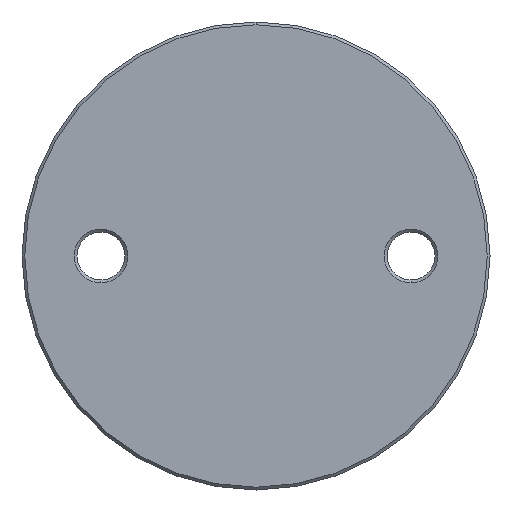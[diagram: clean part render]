
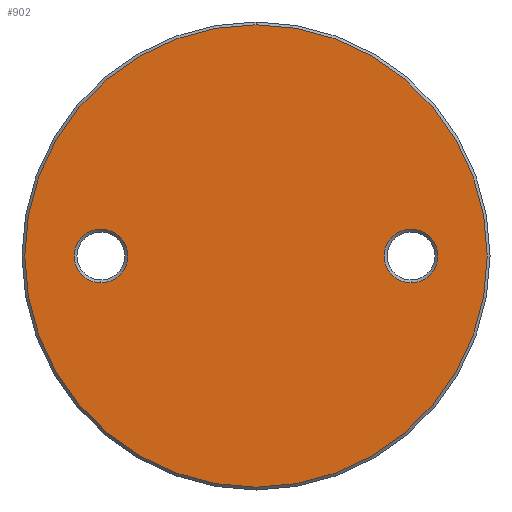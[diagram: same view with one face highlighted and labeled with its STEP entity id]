
A CAD part, front view. The second image highlights one B-rep face of the part: STEP entity #902.
In plain terms, the highlighted planar face has unit normal (0, -1, 0).
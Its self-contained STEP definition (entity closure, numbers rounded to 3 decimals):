
#305 = CARTESIAN_POINT ( 'NONE',  ( 0., -3., 41. ) ) ;
#339 = VERTEX_POINT ( 'NONE', #6341 ) ;
#532 = CARTESIAN_POINT ( 'NONE',  ( 27.5, -3., 0. ) ) ;
#805 = EDGE_CURVE ( 'NONE', #3270, #4691, #6602, .T. ) ;
#896 = CARTESIAN_POINT ( 'NONE',  ( -27.5, -3., 0. ) ) ;
#902 = ADVANCED_FACE ( 'NONE', ( #4488, #4258, #3660 ), #2490, .T. ) ;
#910 = DIRECTION ( 'NONE',  ( 0., 0., -1. ) ) ;
#929 = CIRCLE ( 'NONE', #1863, 4.75 ) ;
#1268 = AXIS2_PLACEMENT_3D ( 'NONE', #4307, #2205, #4810 ) ;
#1441 = DIRECTION ( 'NONE',  ( 0., 0., -1. ) ) ;
#1470 = CARTESIAN_POINT ( 'NONE',  ( 0., -3., 41.5 ) ) ;
#1496 = EDGE_CURVE ( 'NONE', #4153, #6148, #5569, .T. ) ;
#1835 = CIRCLE ( 'NONE', #6627, 4.75 ) ;
#1863 = AXIS2_PLACEMENT_3D ( 'NONE', #4281, #4450, #2833 ) ;
#1874 = ORIENTED_EDGE ( 'NONE', *, *, #3825, .T. ) ;
#2031 = CARTESIAN_POINT ( 'NONE',  ( -27.5, -3., 0. ) ) ;
#2043 = ORIENTED_EDGE ( 'NONE', *, *, #6791, .T. ) ;
#2205 = DIRECTION ( 'NONE',  ( 0., -1., 0. ) ) ;
#2284 = EDGE_LOOP ( 'NONE', ( #3290, #5967 ) ) ;
#2299 = AXIS2_PLACEMENT_3D ( 'NONE', #1470, #6250, #1441 ) ;
#2490 = PLANE ( 'NONE',  #2299 ) ;
#2552 = DIRECTION ( 'NONE',  ( 0., 1., 0. ) ) ;
#2668 = CARTESIAN_POINT ( 'NONE',  ( 0., -3., -41. ) ) ;
#2833 = DIRECTION ( 'NONE',  ( 0., 0., -1. ) ) ;
#2948 = AXIS2_PLACEMENT_3D ( 'NONE', #532, #5836, #3678 ) ;
#3061 = ORIENTED_EDGE ( 'NONE', *, *, #4284, .T. ) ;
#3080 = DIRECTION ( 'NONE',  ( 0., 0., -1. ) ) ;
#3137 = EDGE_LOOP ( 'NONE', ( #3061, #4955 ) ) ;
#3164 = CARTESIAN_POINT ( 'NONE',  ( -27.5, -3., -4.75 ) ) ;
#3270 = VERTEX_POINT ( 'NONE', #2668 ) ;
#3290 = ORIENTED_EDGE ( 'NONE', *, *, #1496, .T. ) ;
#3660 = FACE_OUTER_BOUND ( 'NONE', #3137, .T. ) ;
#3678 = DIRECTION ( 'NONE',  ( 0., 0., -1. ) ) ;
#3711 = DIRECTION ( 'NONE',  ( 0., 1., 0. ) ) ;
#3825 = EDGE_CURVE ( 'NONE', #5262, #339, #929, .T. ) ;
#4089 = CIRCLE ( 'NONE', #2948, 4.75 ) ;
#4101 = CARTESIAN_POINT ( 'NONE',  ( 0., -3., 0. ) ) ;
#4131 = EDGE_LOOP ( 'NONE', ( #1874, #2043 ) ) ;
#4153 = VERTEX_POINT ( 'NONE', #3164 ) ;
#4258 = FACE_BOUND ( 'NONE', #2284, .T. ) ;
#4281 = CARTESIAN_POINT ( 'NONE',  ( 27.5, -3., 0. ) ) ;
#4284 = EDGE_CURVE ( 'NONE', #4691, #3270, #5519, .T. ) ;
#4307 = CARTESIAN_POINT ( 'NONE',  ( 0., -3., 0. ) ) ;
#4450 = DIRECTION ( 'NONE',  ( 0., 1., 0. ) ) ;
#4488 = FACE_BOUND ( 'NONE', #4131, .T. ) ;
#4569 = AXIS2_PLACEMENT_3D ( 'NONE', #4101, #5706, #910 ) ;
#4621 = CARTESIAN_POINT ( 'NONE',  ( -27.5, -3., 4.75 ) ) ;
#4691 = VERTEX_POINT ( 'NONE', #305 ) ;
#4776 = EDGE_CURVE ( 'NONE', #6148, #4153, #1835, .T. ) ;
#4810 = DIRECTION ( 'NONE',  ( 0., 0., -1. ) ) ;
#4955 = ORIENTED_EDGE ( 'NONE', *, *, #805, .T. ) ;
#5107 = AXIS2_PLACEMENT_3D ( 'NONE', #2031, #3711, #6950 ) ;
#5262 = VERTEX_POINT ( 'NONE', #6033 ) ;
#5519 = CIRCLE ( 'NONE', #1268, 41. ) ;
#5569 = CIRCLE ( 'NONE', #5107, 4.75 ) ;
#5706 = DIRECTION ( 'NONE',  ( 0., -1., 0. ) ) ;
#5836 = DIRECTION ( 'NONE',  ( 0., 1., 0. ) ) ;
#5967 = ORIENTED_EDGE ( 'NONE', *, *, #4776, .T. ) ;
#6033 = CARTESIAN_POINT ( 'NONE',  ( 27.5, -3., -4.75 ) ) ;
#6148 = VERTEX_POINT ( 'NONE', #4621 ) ;
#6250 = DIRECTION ( 'NONE',  ( 0., -1., 0. ) ) ;
#6341 = CARTESIAN_POINT ( 'NONE',  ( 27.5, -3., 4.75 ) ) ;
#6602 = CIRCLE ( 'NONE', #4569, 41. ) ;
#6627 = AXIS2_PLACEMENT_3D ( 'NONE', #896, #2552, #3080 ) ;
#6791 = EDGE_CURVE ( 'NONE', #339, #5262, #4089, .T. ) ;
#6950 = DIRECTION ( 'NONE',  ( 0., 0., -1. ) ) ;
